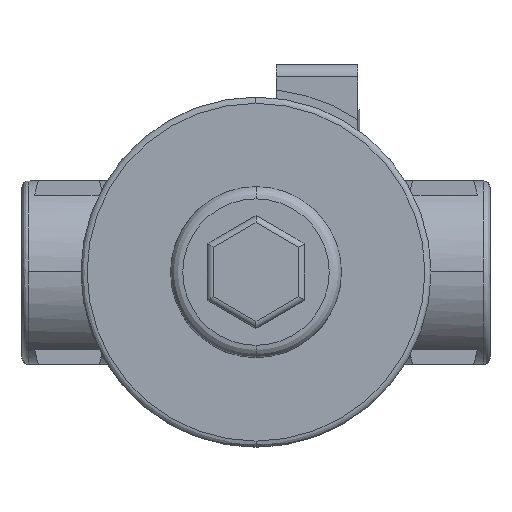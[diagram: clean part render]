
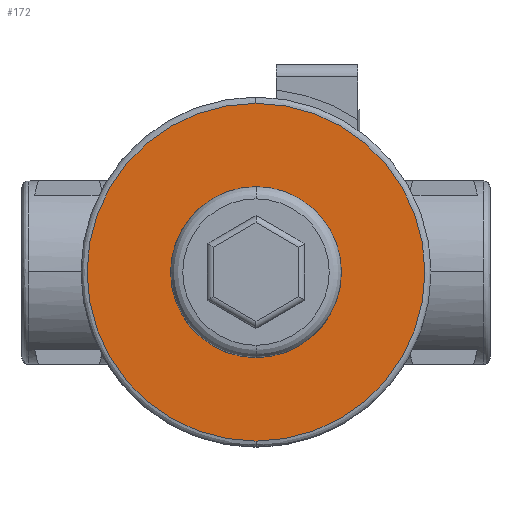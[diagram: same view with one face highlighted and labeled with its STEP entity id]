
A CAD part, top view. The second image highlights one B-rep face of the part: STEP entity #172.
In plain terms, the highlighted planar face has unit normal (0, 0, 1) as drawn and (0, 1, 0) by its records, which use the part's own axes.
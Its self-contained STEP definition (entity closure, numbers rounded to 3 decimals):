
#172=ADVANCED_FACE('',(#1211,#1212),#1210,.T.);
#1210=PLANE('',#2311);
#1211=FACE_OUTER_BOUND('',#2312,.T.);
#1212=FACE_BOUND('',#2313,.T.);
#2308=CARTESIAN_POINT('',(-81.88,49.35,-93.));
#2309=DIRECTION('',(0.,1.,0.));
#2310=DIRECTION('',(0.,0.,1.));
#2311=AXIS2_PLACEMENT_3D('',#2308,#2309,#2310);
#2312=EDGE_LOOP('',(#3359,#3360));
#2313=EDGE_LOOP('',(#3361,#3362,#3363));
#3359=ORIENTED_EDGE('',*,*,#3947,.T.);
#3360=ORIENTED_EDGE('',*,*,#3948,.T.);
#3361=ORIENTED_EDGE('',*,*,#3949,.T.);
#3362=ORIENTED_EDGE('',*,*,#3950,.T.);
#3363=ORIENTED_EDGE('',*,*,#3951,.T.);
#3947=EDGE_CURVE('',#5809,#5810,#5811,.T.);
#3948=EDGE_CURVE('',#5810,#5809,#5817,.T.);
#3949=EDGE_CURVE('',#5823,#5824,#5825,.T.);
#3950=EDGE_CURVE('',#5824,#5831,#5832,.T.);
#3951=EDGE_CURVE('',#5831,#5823,#5838,.T.);
#5809=VERTEX_POINT('',#7804);
#5810=VERTEX_POINT('',#7805);
#5811=CIRCLE('',#7809,41.5);
#5817=CIRCLE('',#7813,41.5);
#5823=VERTEX_POINT('',#7814);
#5824=VERTEX_POINT('',#7815);
#5825=CIRCLE('',#7819,21.);
#5831=VERTEX_POINT('',#7820);
#5832=CIRCLE('',#7824,21.);
#5838=CIRCLE('',#7828,21.);
#7804=CARTESIAN_POINT('',(0.,49.35,41.5));
#7805=CARTESIAN_POINT('',(0.,49.35,-41.5));
#7806=CARTESIAN_POINT('',(0.,49.35,0.));
#7807=DIRECTION('',(0.,1.,0.));
#7808=DIRECTION('',(0.,0.,1.));
#7809=AXIS2_PLACEMENT_3D('',#7806,#7807,#7808);
#7810=CARTESIAN_POINT('',(0.,49.35,0.));
#7811=DIRECTION('',(0.,1.,0.));
#7812=DIRECTION('',(0.,0.,1.));
#7813=AXIS2_PLACEMENT_3D('',#7810,#7811,#7812);
#7814=CARTESIAN_POINT('',(0.,49.35,21.));
#7815=CARTESIAN_POINT('',(-21.,49.35,0.));
#7816=CARTESIAN_POINT('',(0.,49.35,0.));
#7817=DIRECTION('',(0.,-1.,0.));
#7818=DIRECTION('',(0.,0.,1.));
#7819=AXIS2_PLACEMENT_3D('',#7816,#7817,#7818);
#7820=CARTESIAN_POINT('',(21.,49.35,-0.002));
#7821=CARTESIAN_POINT('',(0.,49.35,0.));
#7822=DIRECTION('',(0.,-1.,0.));
#7823=DIRECTION('',(0.,0.,1.));
#7824=AXIS2_PLACEMENT_3D('',#7821,#7822,#7823);
#7825=CARTESIAN_POINT('',(0.,49.35,0.));
#7826=DIRECTION('',(0.,-1.,0.));
#7827=DIRECTION('',(0.,0.,1.));
#7828=AXIS2_PLACEMENT_3D('',#7825,#7826,#7827);
